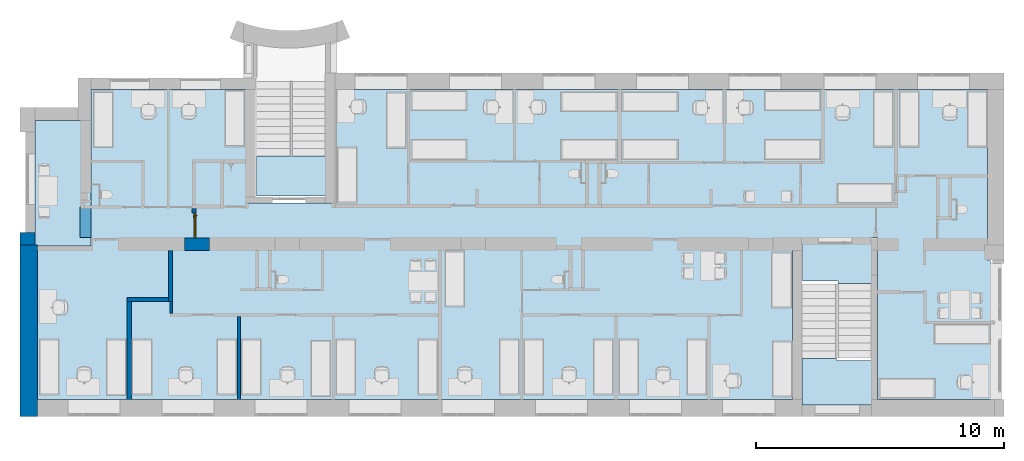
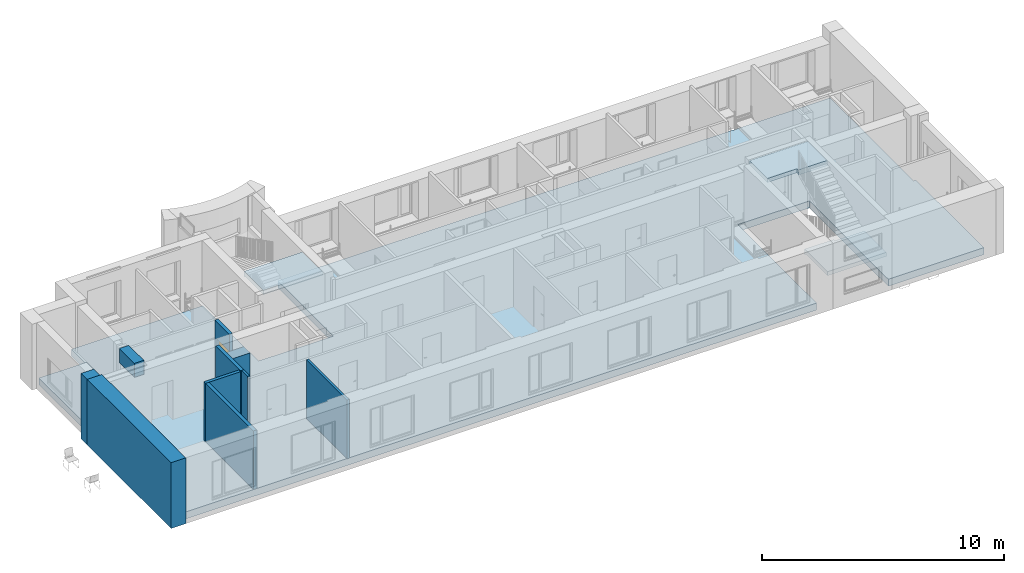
# One storey, part 1 of 48: 10 walls, 5 slabs, 1 door, 2 openings, 3 elements without a shape of their own.
"""IFC2X3 building model written with IfcOpenShell, lengths in millimetres."""

from ifc_helpers import new_model, entity, si_unit, converted_unit, derived_unit, direction, frame, frame_2d, origin, place, context, subcontext, project, spatial, polyline, rectangle, outline, extrude, clip, bounded_halfspace, faceted_brep, source, transform, mapped, material, material_list, layer, layer_set, layer_usage, type_object, type_shapes, element, fill, aggregate, save


model = new_model("IFC2X3")

# Units and contexts
model_context = context("Model", 3, precision=0.01, world=origin(), true_north=direction((6.12303176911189e-17, 1.0)))
body_context = subcontext(model_context, "Body", "Model", "MODEL_VIEW")
ifc_project = project(units=[si_unit("LENGTHUNIT", "METRE", prefix="MILLI"), si_unit("AREAUNIT", "SQUARE_METRE"), si_unit("VOLUMEUNIT", "CUBIC_METRE"), converted_unit("PLANEANGLEUNIT", "DEGREE", entity("IfcRatioMeasure", 0.0174532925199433), si_unit("PLANEANGLEUNIT", "RADIAN"), dimensions=[0, 0, 0, 0, 0, 0, 0]), si_unit("MASSUNIT", "GRAM", prefix="KILO"), derived_unit("MASSDENSITYUNIT", [(si_unit("MASSUNIT", "GRAM", prefix="KILO"), 1), (si_unit("LENGTHUNIT", "METRE"), -3)]), si_unit("TIMEUNIT", "SECOND"), si_unit("FREQUENCYUNIT", "HERTZ"), si_unit("THERMODYNAMICTEMPERATUREUNIT", "DEGREE_CELSIUS"), derived_unit("THERMALTRANSMITTANCEUNIT", [(si_unit("MASSUNIT", "GRAM", prefix="KILO"), 1), (si_unit("THERMODYNAMICTEMPERATUREUNIT", "KELVIN"), -1), (si_unit("TIMEUNIT", "SECOND"), -3)]), derived_unit("VOLUMETRICFLOWRATEUNIT", [(si_unit("LENGTHUNIT", "METRE"), 3), (si_unit("TIMEUNIT", "SECOND"), -1)]), si_unit("ELECTRICCURRENTUNIT", "AMPERE"), si_unit("ELECTRICVOLTAGEUNIT", "VOLT"), si_unit("POWERUNIT", "WATT"), si_unit("FORCEUNIT", "NEWTON", prefix="KILO"), si_unit("ILLUMINANCEUNIT", "LUX"), si_unit("LUMINOUSFLUXUNIT", "LUMEN"), si_unit("LUMINOUSINTENSITYUNIT", "CANDELA"), derived_unit("USERDEFINED", [(si_unit("MASSUNIT", "GRAM", prefix="KILO"), -1), (si_unit("LENGTHUNIT", "METRE"), -2), (si_unit("TIMEUNIT", "SECOND"), 3), (si_unit("LUMINOUSFLUXUNIT", "LUMEN"), 1)]), derived_unit("LINEARVELOCITYUNIT", [(si_unit("LENGTHUNIT", "METRE"), 1), (si_unit("TIMEUNIT", "SECOND"), -1)]), si_unit("PRESSUREUNIT", "PASCAL"), derived_unit("USERDEFINED", [(si_unit("LENGTHUNIT", "METRE"), -2), (si_unit("MASSUNIT", "GRAM", prefix="KILO"), 1), (si_unit("TIMEUNIT", "SECOND"), -2)]), derived_unit("LINEARFORCEUNIT", [(si_unit("MASSUNIT", "GRAM", prefix="KILO"), 1), (si_unit("LENGTHUNIT", "METRE"), 1), (si_unit("TIMEUNIT", "SECOND"), -2), (si_unit("LENGTHUNIT", "METRE"), -1)]), derived_unit("PLANARFORCEUNIT", [(si_unit("MASSUNIT", "GRAM", prefix="KILO"), 1), (si_unit("LENGTHUNIT", "METRE"), 1), (si_unit("TIMEUNIT", "SECOND"), -2), (si_unit("LENGTHUNIT", "METRE"), -2)])], contexts=[model_context])

# Site, building, storey
site_placement = place(None, origin())
site = spatial("IfcSite", under=ifc_project, at=site_placement, Name="Default", CompositionType="ELEMENT")
building_placement = place(site_placement, origin())
building = spatial("IfcBuilding", under=site, at=building_placement, Name="SMA ARH", CompositionType="ELEMENT")
storey_placement = place(building_placement, frame((0.0, 0.0, 6600.0)))
storey = spatial("IfcBuildingStorey", under=building, at=storey_placement, Name="3 Korrus", CompositionType="ELEMENT", Elevation=6599.99999999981)

# Slab
ifc_material_1 = material(Name="EST. Betoon. Armeeritud. Kohtvalu")
ifc_layer_1 = layer(ifc_material_1, 60.0)
ifc_material_2 = material(Name="EST. Soojustus. Mineraalvill. Default")
ifc_layer_2 = layer(ifc_material_2, 30.0)
ifc_material_3 = material(Name="EST. Puistematerjal. Kergkruus")
ifc_layer_3 = layer(ifc_material_3, 40.0)
ifc_material_4 = material(Name="EST. Betoon. Armeeritud. Monteeritav(1)")
ifc_layer_4 = layer(ifc_material_4, 220.0)
ifc_layer_set_1 = layer_set([ifc_layer_1, ifc_layer_2, ifc_layer_3, ifc_layer_4], Name="Floor:VL-00_R/B 370mm 3 k")
ifc_layer_usage_1 = layer_usage(ifc_layer_set_1, "AXIS3", "POSITIVE", 0.0)
slab_type_1 = type_object("IfcSlabType", Name="Floor:VL-00_R/B 370mm 3 k", PredefinedType="FLOOR", material=ifc_layer_set_1)
slab_1_placement = place(storey_placement, origin())
element("IfcSlab", 1, at=slab_1_placement, inside=storey, type_object=slab_type_1, material=ifc_layer_usage_1, Name="Floor:VL-00_R/B 370mm 3 k", ObjectType="Floor:VL-00_R/B 370mm 3 k", PredefinedType="FLOOR", context=body_context, shape_type="SweptSolid", body=[
    extrude(outline(polyline([(-6407.65038036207, -20455.6126248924), (-162.650380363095, -20455.6126248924), (-162.650380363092, -18290.6126248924), (6088.55266253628, -18290.6126248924), (6088.55266253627, -12025.6126248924), (1497.34961963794, -12025.6126248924), (1497.34961963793, -8455.61262489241), (6092.34961963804, -8455.6126248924), (6092.34961963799, 17859.3873751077), (-802.65038036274, 17859.3873751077), (-802.65038036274, 17964.2883742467), (-6407.65038036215, 17964.2883742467), (-6407.65038036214, 13409.3873751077), (102.349619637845, 13409.3873751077), (102.349619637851, 9994.38737510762), (-6407.65038036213, 9994.38737510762), (-6407.65038036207, -20455.6126248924)])), frame((20455.6126248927, 6407.65038036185, 20.0), z_axis=(0.0, 0.0, -1.0), x_axis=(0.0, 1.0, 0.0)), (0.0, 0.0, 1.0), 349.999999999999),
])

# Stair, slab
stair_1_placement = place(storey_placement, origin())
stair_1 = element("IfcStair", 2, at=stair_1_placement, inside=storey, Name="Cast-In-Place Stair:Stair", ObjectType="Cast-In-Place Stair:Cast-In-Place Stair", ShapeType="STRAIGHT_RUN_STAIR")
slab_type_2 = type_object("IfcSlabType", Name="Monolithic Landing:300 mm Thickness", PredefinedType="LANDING")
slab_2_placement = place(stair_1_placement, frame((30835.0, -230.0, 0.0)))
slab_2 = element("IfcSlab", 3, at=slab_2_placement, type_object=slab_type_2, Name="Cast-In-Place Stair:Stair:1045978 Landing 1", ObjectType="Monolithic Landing:300 mm Thickness", PredefinedType="LANDING", context=body_context, shape_type="Brep", body=[
    faceted_brep([(1375.0, 1885.0, 1600.0), (0.0, 1885.0, 1600.0), (0.0, 1761.39320225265, 1600.0), (0.0, 0.0, 1600.0), (2800.0, 0.0, 1600.0), (2800.0, 1785.0, 1600.0), (1375.0, 1785.0, 1600.0), (2800.0, 0.0, 1400.0), (2800.0, 1785.0, 1400.0), (0.0, 1885.0, 1450.0), (0.0, 1885.0, 1338.19660112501), (0.0, 1761.39320225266, 1400.0), (0.0, 0.0, 1400.0), (1375.0, 1761.39320225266, 1400.0), (1375.0, 1785.0, 1400.0), (1375.0, 1885.0, 1450.0), (1375.0, 1885.0, 1338.19660112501)], [[[0, 1, 2, 3, 4, 5, 6]], [[5, 4, 7, 8]], [[1, 9, 10, 11, 12, 3, 2]], [[11, 13, 14, 8, 7, 12]], [[1, 0, 15, 16, 10, 9]], [[16, 13, 11, 10]], [[4, 3, 12, 7]], [[6, 5, 8, 14]], [[0, 6, 14, 13, 16, 15]]]),
])
aggregate(stair_1, [slab_2])

stair_2_placement = place(storey_placement, origin())
stair_2 = element("IfcStair", 4, at=stair_2_placement, inside=storey, Name="Cast-In-Place Stair:Stair", ObjectType="Cast-In-Place Stair:Cast-In-Place Stair", ShapeType="STRAIGHT_RUN_STAIR")
slab_type_3 = type_object("IfcSlabType", Name="Monolithic Landing:300 mm Thickness", PredefinedType="LANDING")
slab_3_placement = place(stair_2_placement, frame((30855.0, 4670.0, 0.0)))
slab_3 = element("IfcSlab", 5, at=slab_3_placement, type_object=slab_type_3, Name="Cast-In-Place Stair:Stair:1055920 Landing 1", ObjectType="Monolithic Landing:300 mm Thickness", PredefinedType="LANDING", context=body_context, shape_type="Brep", body=[
    faceted_brep([(1425.0, 0.0, 3250.0), (2800.0, 0.0, 3250.0), (2800.0, 123.606797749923, 3250.0), (2800.0, 1590.0, 3250.0), (0.0, 1590.0, 3250.0), (0.0, 100.0, 3250.0), (1425.0, 100.0, 3250.0), (0.0, 1590.0, 3050.0), (0.0, 100.0, 3050.0), (2800.0, 0.0, 3100.0), (2800.0, 0.0, 2988.19660112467), (2800.0, 123.606797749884, 3050.0), (2800.0, 1590.0, 3050.0), (1425.0, 123.606797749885, 3050.0), (1425.0, 100.0, 3050.0), (1425.0, 0.0, 3100.0), (1425.0, 0.0, 2988.19660112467)], [[[0, 1, 2, 3, 4, 5, 6]], [[5, 4, 7, 8]], [[1, 9, 10, 11, 12, 3, 2]], [[4, 3, 12, 7]], [[11, 13, 14, 8, 7, 12]], [[1, 0, 15, 16, 10, 9]], [[16, 13, 11, 10]], [[6, 5, 8, 14]], [[0, 6, 14, 13, 16, 15]]]),
])
aggregate(stair_2, [slab_3])

stair_3_placement = place(storey_placement, origin())
stair_3 = element("IfcStair", 6, at=stair_3_placement, inside=storey, Name="Cast-In-Place Stair:Stair", ObjectType="Cast-In-Place Stair:Cast-In-Place Stair", ShapeType="STRAIGHT_RUN_STAIR")
slab_type_4 = type_object("IfcSlabType", Name="Monolithic Landing:300 mm Thickness", PredefinedType="LANDING")
slab_4_placement = place(stair_3_placement, frame((8830.0, 8190.0, 0.0)))
slab_4 = element("IfcSlab", 7, at=slab_4_placement, type_object=slab_type_4, Name="Cast-In-Place Stair:Stair:1077825 Landing 1", ObjectType="Monolithic Landing:300 mm Thickness", PredefinedType="LANDING", context=body_context, shape_type="Brep", body=[
    faceted_brep([(1375.0, 1612.80572404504, 3240.0), (0.0, 1612.80572404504, 3240.0), (0.0, 1485.24466512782, 3240.0), (0.0, 0.0, 3240.0), (2800.0, 0.0, 3240.0), (2800.0, 1612.80572404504, 3240.0), (2800.0, 0.0, 3040.0), (2800.0, 1612.80572404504, 3040.0), (0.0, 1612.80572404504, 3087.27272727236), (0.0, 1612.80572404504, 2975.05982455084), (0.0, 1485.24466512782, 3040.0), (0.0, 0.0, 3040.0), (1375.0, 1485.24466512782, 3040.0), (1375.0, 1612.80572404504, 3040.0), (1375.0, 1612.80572404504, 2975.05982455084)], [[[0, 1, 2, 3, 4, 5]], [[5, 4, 6, 7]], [[1, 8, 9, 10, 11, 3, 2]], [[4, 3, 11, 6]], [[10, 12, 13, 7, 6, 11]], [[1, 0, 13, 14, 9, 8]], [[0, 5, 7, 13]], [[12, 10, 9, 14]], [[13, 12, 14]]]),
])
aggregate(stair_3, [slab_4])

# Slab
ifc_layer_5 = layer(ifc_material_1, 60.0)
ifc_layer_6 = layer(ifc_material_2, 30.0)
ifc_layer_7 = layer(ifc_material_3, 20.0)
ifc_layer_8 = layer(ifc_material_4, 220.0)
ifc_layer_set_2 = layer_set([ifc_layer_5, ifc_layer_6, ifc_layer_7, ifc_layer_8], Name="Floor:VL-00_R/B 370mm 2 k 2")
ifc_layer_usage_2 = layer_usage(ifc_layer_set_2, "AXIS3", "POSITIVE", 0.0)
slab_type_5 = type_object("IfcSlabType", Name="Floor:VL-00_R/B 370mm 2 k 2", PredefinedType="FLOOR", material=ifc_layer_set_2)
slab_5_placement = place(storey_placement, origin())
element("IfcSlab", 8, at=slab_5_placement, inside=storey, type_object=slab_type_5, material=ifc_layer_usage_2, Name="Floor:VL-00_R/B 370mm 2 k 2", ObjectType="Floor:VL-00_R/B 370mm 2 k 2", PredefinedType="FLOOR", context=body_context, shape_type="SweptSolid", body=[
    extrude(rectangle(XDim=5069.99999999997, YDim=2265.0, at=frame_2d((-2.04636307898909e-12, 2.04636307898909e-12), x_axis=(1.0, 0.0))), frame((1032.50000000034, 8715.0, 120.0), z_axis=(0.0, 0.0, -1.0), x_axis=(0.0, 1.0, 0.0)), (0.0, 0.0, 1.0), 330.0),
])

# Walls
ifc_material_5 = material(Name="_ol.olev sein")
ifc_layer_9 = layer(ifc_material_5, 700.0)
ifc_layer_set_3 = layer_set([ifc_layer_9], Name="Basic Wall:Generic - 700mm")
ifc_layer_usage_3 = layer_usage(ifc_layer_set_3, "AXIS2", "POSITIVE", -350.0)
wall_type_1 = type_object("IfcWallType", Name="Basic Wall:Generic - 700mm", PredefinedType="STANDARD", material=ifc_layer_set_3)
wall_1_placement = place(storey_placement, frame((-350.0, 6225.0, 0.0), z_axis=(0.0, 0.0, 1.0), x_axis=(0.0, -1.0, 0.0)))
element("IfcWallStandardCase", 9, at=wall_1_placement, inside=storey, type_object=wall_type_1, material=ifc_layer_usage_3, Name="Basic Wall:Generic - 700mm", ObjectType="Basic Wall:Generic - 700mm", context=body_context, shape_type="SweptSolid", body=[
    extrude(rectangle(XDim=6925.0, YDim=700.0, at=frame_2d((3462.5, 8.5265128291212e-14), x_axis=(-1.0, 0.0))), origin(), (0.0, 0.0, 1.0), 3309.99999999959),
])
ifc_layer_10 = layer(ifc_material_5, 600.0)
ifc_layer_set_4 = layer_set([ifc_layer_10], Name="Basic Wall:Generic - 600mm")
ifc_layer_usage_4 = layer_usage(ifc_layer_set_4, "AXIS2", "NEGATIVE", 300.0)
wall_type_2 = type_object("IfcWallType", Name="Basic Wall:Generic - 600mm", PredefinedType="STANDARD", material=ifc_layer_set_4)
wall_2_placement = place(storey_placement, frame((-400.0, 6225.0, 0.0), z_axis=(0.0, 0.0, 1.0), x_axis=(0.0, 1.0, 0.0)))
element("IfcWallStandardCase", 10, at=wall_2_placement, inside=storey, type_object=wall_type_2, material=ifc_layer_usage_4, Name="Basic Wall:Generic - 600mm", ObjectType="Basic Wall:Generic - 600mm", context=body_context, shape_type="SweptSolid", body=[
    extrude(rectangle(XDim=495.000000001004, YDim=600.0, at=frame_2d((247.500000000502, 5.6843418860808e-14), x_axis=(-1.0, 0.0))), origin(), (0.0, 0.0, 1.0), 3309.99999999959),
])
ifc_layer_11 = layer(ifc_material_5, 450.0)
ifc_layer_set_5 = layer_set([ifc_layer_11], Name="Basic Wall:Generic - 450mm")
ifc_layer_usage_5 = layer_usage(ifc_layer_set_5, "AXIS2", "NEGATIVE", 225.0)
wall_type_3 = type_object("IfcWallType", Name="Basic Wall:Generic - 450mm", PredefinedType="STANDARD", material=ifc_layer_set_5)
wall_3_placement = place(storey_placement, frame((1941.80783715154, 6515.0, 2384.98525677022), z_axis=(0.0, 0.0, 1.0), x_axis=(0.0, 1.0, 0.0)))
element("IfcWallStandardCase", 11, at=wall_3_placement, inside=storey, type_object=wall_type_3, material=ifc_layer_usage_5, Name="Basic Wall:Generic - 450mm", ObjectType="Basic Wall:Generic - 450mm", context=body_context, shape_type="SweptSolid", body=[
    extrude(rectangle(XDim=1243.00000000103, YDim=450.0, at=frame_2d((621.500000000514, -4.2632564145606e-14), x_axis=(-1.0, 0.0))), origin(), (0.0, 0.0, 1.0), 701.510728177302),
])
ifc_material_6 = material(Name="EST. Ehitusplaat. Kipsplaat")
ifc_layer_12 = layer(ifc_material_6, 12.5)
ifc_layer_13 = layer(ifc_material_6, 12.5)
ifc_layer_14 = layer(ifc_material_2, 50.0)
ifc_layer_15 = layer(ifc_material_6, 12.5)
ifc_layer_16 = layer(ifc_material_2, 50.0)
ifc_layer_17 = layer(ifc_material_6, 12.5)
ifc_layer_18 = layer(ifc_material_6, 12.5)
ifc_layer_set_6 = layer_set([ifc_layer_12, ifc_layer_13, ifc_layer_14, ifc_layer_15, ifc_layer_16, ifc_layer_17, ifc_layer_18], Name="Basic Wall:SS-04_Kips, 50+50 mm metallkarkass 2")
ifc_layer_usage_6 = layer_usage(ifc_layer_set_6, "AXIS2", "NEGATIVE", 81.25)
wall_type_4 = type_object("IfcWallType", Name="Basic Wall:SS-04_Kips, 50+50 mm metallkarkass 2", PredefinedType="STANDARD", material=ifc_layer_set_6)
wall_4_placement = place(storey_placement, frame((3704.50000000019, 0.0, 20.0), z_axis=(0.0, 0.0, 1.0), x_axis=(0.0, 1.0, 0.0)))
element("IfcWallStandardCase", 12, at=wall_4_placement, inside=storey, type_object=wall_type_4, material=ifc_layer_usage_6, Name="Basic Wall:SS-04_Kips, 50+50 mm metallkarkass 2", ObjectType="Basic Wall:SS-04_Kips, 50+50 mm metallkarkass 2", context=body_context, shape_type="Clipping", body=[
    clip(extrude(rectangle(XDim=3953.00000000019, YDim=162.5, at=frame_2d((1976.5000000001, 1.56319401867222e-13), x_axis=(-1.0, 0.0))), origin(), (0.0, 0.0, 1.0), 2949.99999999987), bounded_halfspace(frame((3953.0, -81.2499999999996, 0.0), z_axis=(0.0, 0.0, 1.0), x_axis=(-1.0, 0.0, 0.0)), True, frame((3953.0, -81.2499999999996, 0.0), z_axis=(0.0, 0.0, 1.0), x_axis=(-1.0, 0.0, 0.0)), polyline([(0.0, 0.0), (0.0, -162.5), (3953.0, -162.5), (3953.0, 0.0), (0.0, 0.0)]))),
])
ifc_layer_usage_7 = layer_usage(ifc_layer_set_6, "AXIS2", "NEGATIVE", 81.25)
wall_5_placement = place(storey_placement, frame((5372.50000000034, 6005.0, 0.0), z_axis=(0.0, 0.0, 1.0), x_axis=(0.0, -1.0, 0.0)))
element("IfcWallStandardCase", 13, at=wall_5_placement, inside=storey, type_object=wall_type_4, material=ifc_layer_usage_7, Name="Basic Wall:SS-04_Kips, 50+50 mm metallkarkass 2", ObjectType="Basic Wall:SS-04_Kips, 50+50 mm metallkarkass 2", context=body_context, shape_type="SweptSolid", body=[
    extrude(rectangle(XDim=2051.99999999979, YDim=162.5, at=frame_2d((1025.9999999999, 1.20792265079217e-13), x_axis=(-1.0, 0.0))), origin(), (0.0, 0.0, 1.0), 3019.99999999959),
])

# Wall, opening, door
wall_6_placement = place(storey_placement, frame((6316.57130046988, 6510.0, 0.0), z_axis=(0.0, 0.0, 1.0), x_axis=(0.0, 1.0, 0.0)))
wall_6 = element("IfcWall", 14, at=wall_6_placement, inside=storey, type_object=wall_type_4, Name="Basic Wall:SS-04_Kips, 50+50 mm metallkarkass 2", ObjectType="Basic Wall:SS-04_Kips, 50+50 mm metallkarkass 2", context=body_context, shape_type="Brep", body=[
    faceted_brep([(1190.0, -81.2500000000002, 0.0), (1190.0, -81.2500000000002, 2970.0), (5.0, -81.2499999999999, 2970.0), (5.0, -81.2499999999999, 2110.0), (0.0, -81.2499999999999, 2110.0), (0.0, -81.2499999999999, 2100.0), (1000.0, -81.2499999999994, 2100.0), (1000.0, -81.2499999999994, 0.0), (1190.0, 81.2499999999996, 2970.0), (1190.0, 81.2499999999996, 0.0), (1000.0, 81.2500000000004, 0.0), (1000.0, 81.2500000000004, 2100.0), (0.0, 81.25, 2100.0), (0.0, 81.25, 2110.0), (5.0, 81.25, 2110.0), (5.0, 81.25, 2970.0)], [[[0, 1, 2, 3, 4, 5, 6, 7]], [[8, 9, 10, 11, 12, 13, 14, 15]], [[9, 0, 7, 10]], [[1, 0, 9, 8]], [[2, 1, 8, 15]], [[11, 6, 5, 12]], [[6, 11, 10, 7]], [[14, 13, 4, 3]], [[4, 13, 12, 5]], [[2, 15, 14, 3]]]),
])
opening_1_placement = place(wall_6_placement, frame((1000.0, 81.2499999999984, 0.0)))
opening_1 = element("IfcOpeningElement", 15, at=opening_1_placement, cuts=wall_6, Name="SMA_D01, 1-poolne:SU-P-04 - 1000x2100 EI-30:1", ObjectType="Opening", context=body_context, shape_type="SweptSolid", body=[
    extrude(rectangle(XDim=2099.99999999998, YDim=1000.0, at=frame_2d((1049.99999999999, 500.0), x_axis=(1.0, 0.0))), frame((0.0, 0.0, 0.0), z_axis=(0.0, -1.0, 0.0), x_axis=(0.0, 0.0, 1.0)), (0.0, 0.0, 1.0), 162.5),
])
ifc_material_7 = material(Name="EST. Metall. Alumiinium. Värvitud. RAL7023 (Concrete grey)")
ifc_material_8 = material(Name="<Unnamed>")
ifc_material_9 = material(Name="EST. Klaas. 3x. Default")
ifc_material_list = material_list([ifc_material_7, ifc_material_8, ifc_material_7, ifc_material_8, ifc_material_9, ifc_material_8, ifc_material_7])
door_style = type_object("IfcDoorStyle", Name="SMA_D01, 1-poolne:SU-P-04 - 1000x2100 EI-30", ConstructionType="NOTDEFINED", OperationType="SINGLE_SWING_RIGHT", ParameterTakesPrecedence=False, Sizeable=False, material=ifc_material_list)
shared_shape = source(origin(), body_context, "Body", "Brep", [
    faceted_brep([(110.0, 72.5000000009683, 1112.5), (110.0, 110.500000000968, 1112.5), (85.0, 110.500000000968, 1112.5), (85.0, 67.5000000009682, 1112.5), (205.0, 67.5000000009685, 1112.5), (205.0, 72.5000000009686, 1112.5), (110.0, 72.5000000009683, 1087.5), (205.0, 72.5000000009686, 1087.5), (205.0, 67.5000000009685, 1087.5), (85.0, 67.5000000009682, 1087.5), (85.0, 110.500000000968, 1087.5), (110.0, 110.500000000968, 1087.5)], [[[0, 1, 2, 3, 4, 5]], [[6, 7, 8, 9, 10, 11]], [[1, 0, 6, 11]], [[2, 1, 11, 10]], [[3, 2, 10, 9]], [[4, 3, 9, 8]], [[5, 4, 8, 7]], [[0, 5, 7, 6]]]),
    faceted_brep([(122.499999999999, 110.500000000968, 1137.5), (122.499999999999, 112.500000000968, 1137.5), (72.4999999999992, 112.500000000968, 1137.5), (72.4999999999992, 110.500000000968, 1137.5), (122.499999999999, 110.500000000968, 1017.5), (72.4999999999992, 110.500000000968, 1017.5), (72.4999999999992, 112.500000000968, 1017.5), (122.499999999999, 112.500000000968, 1017.5)], [[[0, 1, 2, 3]], [[4, 5, 6, 7]], [[1, 0, 4, 7]], [[2, 1, 7, 6]], [[3, 2, 6, 5]], [[0, 3, 5, 4]]]),
    faceted_brep([(110.0, 202.500000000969, 1112.5), (205.0, 202.500000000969, 1112.5), (205.0, 207.500000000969, 1112.5), (85.0, 207.500000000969, 1112.5), (85.0, 164.500000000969, 1112.5), (110.0, 164.500000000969, 1112.5), (110.0, 202.500000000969, 1087.5), (110.0, 164.500000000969, 1087.5), (85.0, 164.500000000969, 1087.5), (85.0, 207.500000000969, 1087.5), (205.0, 207.500000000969, 1087.5), (205.0, 202.500000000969, 1087.5)], [[[0, 1, 2, 3, 4, 5]], [[6, 7, 8, 9, 10, 11]], [[5, 7, 6, 0]], [[4, 8, 7, 5]], [[3, 9, 8, 4]], [[2, 10, 9, 3]], [[1, 11, 10, 2]], [[0, 6, 11, 1]]]),
    faceted_brep([(122.499999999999, 164.500000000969, 1137.5), (72.4999999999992, 164.500000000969, 1137.5), (72.4999999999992, 162.500000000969, 1137.5), (122.499999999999, 162.500000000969, 1137.5), (122.499999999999, 164.500000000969, 1017.5), (122.499999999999, 162.500000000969, 1017.5), (72.4999999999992, 162.500000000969, 1017.5), (72.4999999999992, 164.500000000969, 1017.5)], [[[0, 1, 2, 3]], [[4, 5, 6, 7]], [[3, 5, 4, 0]], [[2, 6, 5, 3]], [[1, 7, 6, 2]], [[0, 4, 7, 1]]]),
    faceted_brep([(950.0, 72.5000000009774, 30.0), (950.0, 72.5000000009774, 0.0), (950.0, 112.500000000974, 0.0), (950.0, 112.500000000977, 20.0), (950.0, 112.500000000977, 30.0), (50.0, 72.5000000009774, 30.0), (50.0, 112.500000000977, 30.0), (50.0, 112.500000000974, 20.0), (50.0, 112.500000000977, 0.0), (50.0, 72.5000000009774, 0.0), (35.0, 112.500000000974, 0.0), (35.0, 162.500000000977, 0.0), (965.0, 162.500000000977, 0.0), (965.0, 112.500000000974, 0.0), (965.0, 162.500000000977, 20.0), (965.0, 112.500000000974, 20.0), (35.0, 162.500000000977, 20.0), (35.0, 112.500000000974, 20.0)], [[[0, 1, 2, 3, 4]], [[5, 6, 7, 8, 9]], [[1, 0, 5, 9]], [[2, 1, 9, 8, 10, 11, 12, 13]], [[6, 4, 3, 7]], [[0, 4, 6, 5]], [[14, 15, 13, 12]], [[16, 11, 10, 17]], [[15, 14, 16, 17, 7, 3]], [[13, 15, 3, 2]], [[14, 12, 11, 16]], [[17, 10, 8, 7]]]),
    faceted_brep([(990.0, 72.500000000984, 0.0), (950.0, 72.5000000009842, 0.0), (950.0, 112.500000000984, 0.0), (965.0, 112.500000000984, 0.0), (965.0, 162.500000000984, 0.0), (990.0, 162.500000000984, 0.0), (990.0, 72.500000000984, 2090.0), (10.0, 72.5000000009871, 2090.0), (10.0, 72.5000000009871, 0.0), (50.0, 72.5000000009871, 0.0), (50.0, 72.5000000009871, 2050.0), (950.0, 72.5000000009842, 2050.0), (950.0, 112.500000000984, 2050.0), (50.0, 112.500000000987, 2050.0), (50.0, 112.500000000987, 0.0), (35.0, 112.500000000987, 0.0), (35.0, 112.500000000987, 2065.0), (965.0, 112.500000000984, 2065.0), (965.0, 162.500000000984, 2065.0), (35.0, 162.500000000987, 2065.0), (35.0, 162.500000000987, 0.0), (10.0, 162.500000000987, 0.0), (10.0, 162.500000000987, 2090.0), (990.0, 162.500000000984, 2090.0)], [[[0, 1, 2, 3, 4, 5]], [[1, 0, 6, 7, 8, 9, 10, 11]], [[2, 1, 11, 12]], [[3, 2, 12, 13, 14, 15, 16, 17]], [[4, 3, 17, 18]], [[5, 4, 18, 19, 20, 21, 22, 23]], [[0, 5, 23, 6]], [[8, 7, 22, 21]], [[9, 8, 21, 20, 15, 14]], [[10, 9, 14, 13]], [[16, 15, 20, 19]], [[11, 10, 13, 12]], [[17, 16, 19, 18]], [[7, 6, 23, 22]]]),
    faceted_brep([(35.0, 112.500000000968, 2065.0), (35.0, 112.500000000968, 20.0), (965.0, 112.500000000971, 20.0), (965.0, 112.500000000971, 2065.0), (35.0, 162.500000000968, 2065.0), (965.0, 162.500000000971, 2065.0), (965.0, 162.500000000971, 20.0), (35.0, 162.500000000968, 20.0)], [[[0, 1, 2, 3]], [[4, 5, 6, 7]], [[1, 0, 4, 7]], [[2, 1, 7, 6]], [[3, 2, 6, 5]], [[0, 3, 5, 4]]]),
])
type_shapes(door_style, [shared_shape])
door_placement = place(opening_1_placement, frame((0.0, 0.0, 0.0), z_axis=(0.0, 0.0, 1.0), x_axis=(-1.0, 0.0, 0.0)))
door = element("IfcDoor", 16, at=door_placement, inside=storey, type_object=door_style, material=ifc_material_7, Name="SMA_D01, 1-poolne:SU-P-04 - 1000x2100 EI-30", ObjectType="SMA_D01, 1-poolne:SU-P-04 - 1000x2100 EI-30", OverallHeight=2099.99999999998, OverallWidth=1000.0, context=body_context, shape_type="MappedRepresentation", body=[
    mapped(shared_shape, transform((0.0, 0.0, 0.0), scale=1.0)),
])
fill(opening_1, door)

# Walls
ifc_layer_19 = layer(ifc_material_6, 12.5)
ifc_layer_20 = layer(ifc_material_6, 12.5)
ifc_layer_21 = layer(ifc_material_2, 66.0)
ifc_layer_22 = layer(ifc_material_6, 12.5)
ifc_layer_23 = layer(ifc_material_6, 12.5)
ifc_layer_set_7 = layer_set([ifc_layer_19, ifc_layer_20, ifc_layer_21, ifc_layer_22, ifc_layer_23], Name="Basic Wall:SS-05_Kips, 66mm metallkarkass")
ifc_layer_usage_8 = layer_usage(ifc_layer_set_7, "AXIS2", "NEGATIVE", 58.0)
wall_type_5 = type_object("IfcWallType", Name="Basic Wall:SS-05_Kips, 66mm metallkarkass", PredefinedType="STANDARD", material=ifc_layer_set_7)
wall_7_placement = place(storey_placement, frame((8130.0, 0.0, 0.0), z_axis=(0.0, 0.0, 1.0), x_axis=(0.0, 1.0, 0.0)))
element("IfcWallStandardCase", 17, at=wall_7_placement, inside=storey, type_object=wall_type_5, material=ifc_layer_usage_8, Name="Basic Wall:SS-05_Kips, 66mm metallkarkass", ObjectType="Basic Wall:SS-05_Kips, 66mm metallkarkass", context=body_context, shape_type="SweptSolid", body=[
    extrude(rectangle(XDim=3344.00000000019, YDim=116.0, at=frame_2d((1672.0000000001, 1.4210854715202e-14), x_axis=(-1.0, 0.0))), origin(), (0.0, 0.0, 1.0), 2970.00000000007),
])
ifc_layer_usage_9 = layer_usage(ifc_layer_set_7, "AXIS2", "NEGATIVE", 58.0)
wall_8_placement = place(storey_placement, frame((5395.75000000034, 4025.49999999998, 0.0), z_axis=(0.0, 0.0, 1.0), x_axis=(0.0, -1.0, 0.0)))
element("IfcWallStandardCase", 18, at=wall_8_placement, inside=storey, type_object=wall_type_5, material=ifc_layer_usage_9, Name="Basic Wall:SS-05_Kips, 66mm metallkarkass", ObjectType="Basic Wall:SS-05_Kips, 66mm metallkarkass", context=body_context, shape_type="SweptSolid", body=[
    extrude(rectangle(XDim=493.000000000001, YDim=116.0, at=frame_2d((319.000000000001, 3.5527136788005e-15), x_axis=(-1.0, 0.0))), origin(), (0.0, 0.0, 1.0), 3019.99999999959),
])

# Wall, opening
ifc_material_10 = material(Name="EST. Müüritis. Väikeplokk. Kergkruusplokk")
ifc_layer_24 = layer(ifc_material_10, 510.0)
ifc_layer_set_8 = layer_set([ifc_layer_24], Name="Basic Wall:SS-03_Fibo 510mm kinnilaotav ava")
ifc_layer_usage_10 = layer_usage(ifc_layer_set_8, "AXIS2", "NEGATIVE", 255.0)
wall_type_6 = type_object("IfcWallType", Name="Basic Wall:SS-03_Fibo 510mm kinnilaotav ava", PredefinedType="STANDARD", material=ifc_layer_set_8)
wall_9_placement = place(storey_placement, frame((5930.0, 6255.0, 0.0)))
wall_9 = element("IfcWallStandardCase", 19, at=wall_9_placement, inside=storey, type_object=wall_type_6, material=ifc_layer_usage_10, Name="Basic Wall:SS-03_Fibo 510mm kinnilaotav ava", ObjectType="Basic Wall:SS-03_Fibo 510mm kinnilaotav ava", context=body_context, shape_type="SweptSolid", body=[
    extrude(rectangle(XDim=999.999999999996, YDim=510.000000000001, at=frame_2d((499.999999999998, 0.0), x_axis=(-1.0, 0.0))), origin(), (0.0, 0.0, 1.0), 2109.99999999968),
])
opening_2_placement = place(wall_9_placement, origin())
element("IfcOpeningElement", 20, at=opening_2_placement, cuts=wall_9, Name="Basic Wall:SS-03_Fibo 510mm kinnilaotav ava", ObjectType="Opening", context=body_context, shape_type="SweptSolid", body=[
    extrude(rectangle(XDim=2099.99999999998, YDim=162.5, at=frame_2d((0.0, 5.6843418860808e-13), x_axis=(0.0, 1.0))), frame((386.571300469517, 255.0, 1050.0), z_axis=(0.0, 1.0, 0.0), x_axis=(1.0, 0.0, 0.0)), (0.0, 0.0, 1.0), 1000.0),
])

# Wall
ifc_layer_25 = layer(ifc_material_6, 12.5)
ifc_layer_26 = layer(ifc_material_6, 12.5)
ifc_material_11 = material(Name="EST. Õhkvahe. Roov. Kipsplaadi alusroov. Vertikaalne")
ifc_layer_27 = layer(ifc_material_11, 95.0)
ifc_layer_28 = layer(ifc_material_6, 12.5)
ifc_layer_29 = layer(ifc_material_6, 12.5)
ifc_layer_set_9 = layer_set([ifc_layer_25, ifc_layer_26, ifc_layer_27, ifc_layer_28, ifc_layer_29], Name="Basic Wall:SS-04_Kips, 95mm metallkarkass")
ifc_layer_usage_11 = layer_usage(ifc_layer_set_9, "AXIS2", "NEGATIVE", 72.5)
wall_type_7 = type_object("IfcWallType", Name="Basic Wall:SS-04_Kips, 95mm metallkarkass", PredefinedType="STANDARD", material=ifc_layer_set_9)
wall_10_placement = place(storey_placement, frame((5291.25000000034, 4025.49999999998, 0.0), z_axis=(0.0, 0.0, 1.0), x_axis=(-1.0, 0.0, 0.0)))
element("IfcWallStandardCase", 21, at=wall_10_placement, inside=storey, type_object=wall_type_7, material=ifc_layer_usage_11, Name="Basic Wall:SS-04_Kips, 95mm metallkarkass", ObjectType="Basic Wall:SS-04_Kips, 95mm metallkarkass", context=body_context, shape_type="SweptSolid", body=[
    extrude(rectangle(XDim=1668.00000000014, YDim=145.0, at=frame_2d((834.000000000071, 1.35003119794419e-13), x_axis=(-1.0, 0.0))), origin(), (0.0, 0.0, 1.0), 2970.00000000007),
])

save(model, "model.ifc")
